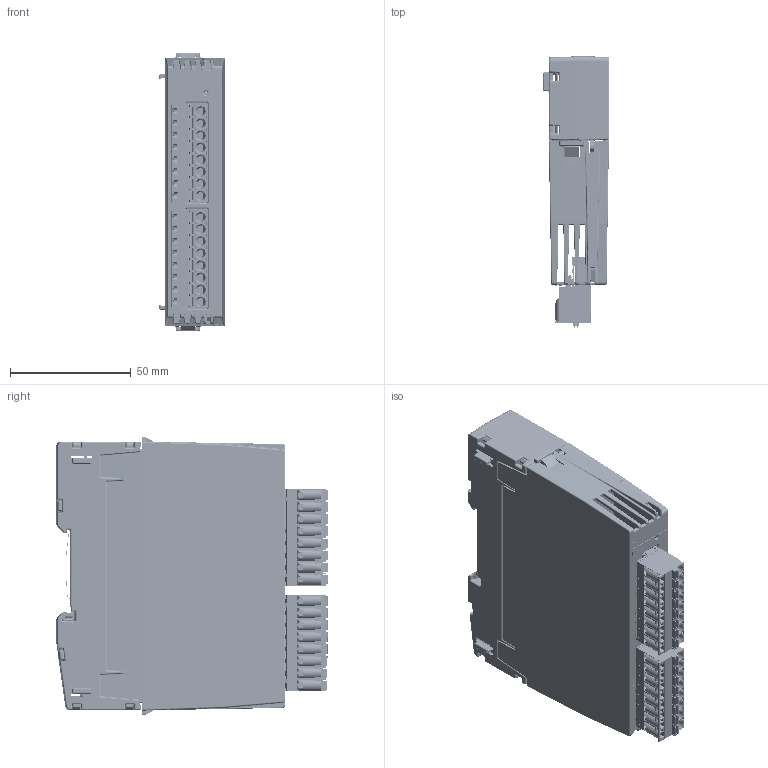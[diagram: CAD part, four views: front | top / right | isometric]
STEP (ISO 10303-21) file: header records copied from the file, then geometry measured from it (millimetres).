
FILE_DESCRIPTION(/* description */ (''),/* implementation_level */ '2;1');
FILE_NAME(/* name */ 'C:\Users\Public\Documents\Autodesk\Inventor 2023\DM08H_Simplified+BackBB21A.stp',/* time_stamp */ '2024-10-24T15:11:31+02:00',/* author */ ('asho'),/* organization */ (''),/* preprocessor_version */ 'ST-DEVELOPER v19',/* originating_system */ 'Autodesk Inventor 2023',/* authorisation */ '');
FILE_SCHEMA (('AUTOMOTIVE_DESIGN { 1 0 10303 214 3 1 1 }'));
Products named in the file (1): DM08H_Simplified+BackBB21A
Bounding box: 27.4 x 112.54 x 115.5 mm (x, y, z)
Volume: 143666.4 mm3; surface area: 90854.4 mm2
Topology: 7 solids, 9 shells, 8950 faces, 24965 edges, 15955 vertices
Faces by surface type: plane 5517, cylinder 2309, bspline 816, sphere 166, cone 101, torus 41
Full cylindrical faces by diameter (mm): 0.3 x148, 0.38 x2, 0.7 x36, 0.8 x6, 0.85 x24, 0.9 x8, 1.3 x24, 1.4 x4, 1.5 x16, 1.6 x2, 2.35 x2, 2.5 x1, 3 x17, 3.25 x2, 4 x16
Entity records: 360808 total; most frequent: CARTESIAN_POINT 121495, ORIENTED_EDGE 49608, DIRECTION 45910, EDGE_CURVE 24804, LINE 17624, VECTOR 17624, VERTEX_POINT 15955, AXIS2_PLACEMENT_3D 14143
